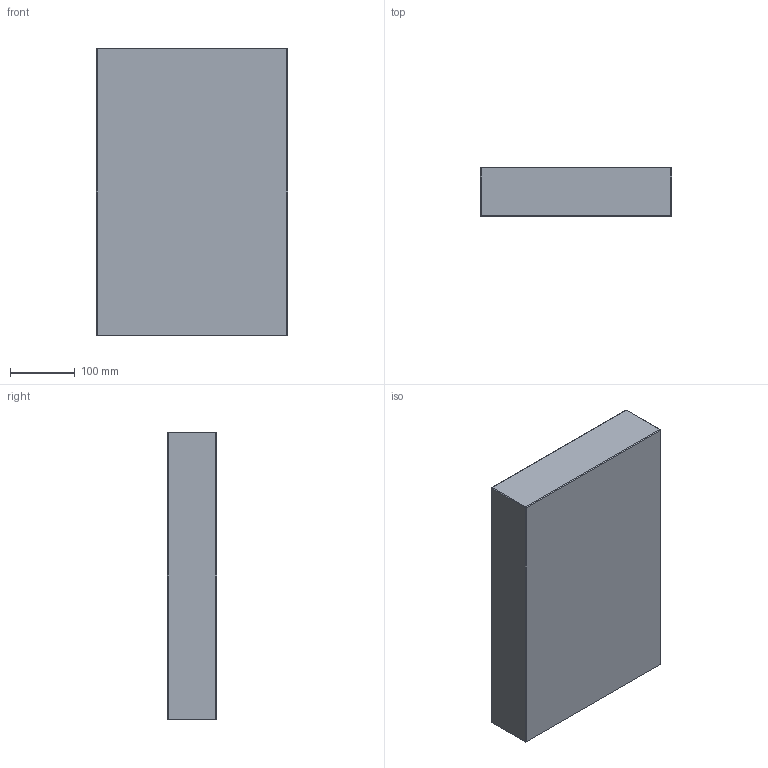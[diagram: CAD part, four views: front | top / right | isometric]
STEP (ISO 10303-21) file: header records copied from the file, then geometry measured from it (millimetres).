
FILE_DESCRIPTION (( 'STEP AP214' ), '1' );
FILE_NAME ('PC-P-296x446x76.STEP', '2020-04-01T09:54:25', ( 'August' ), ( '' ), 'SwSTEP 2.0', 'SolidWorks 2018', '' );
FILE_SCHEMA (( 'AUTOMOTIVE_DESIGN' ));
Length unit declared in the file: millimetre
Products named in the file (1): PC-P-296x446x76
Bounding box: 296 x 76 x 446 mm (x, y, z)
Volume: 10031585.3 mm3; surface area: 374896.3 mm2
Topology: 1 solids, 1 shells, 26 faces, 48 edges, 24 vertices
Faces by surface type: plane 26
Entity records: 634 total; most frequent: DIRECTION 102, CARTESIAN_POINT 99, ORIENTED_EDGE 96, VECTOR 48, EDGE_CURVE 48, LINE 48, AXIS2_PLACEMENT_3D 27, FACE_OUTER_BOUND 26
